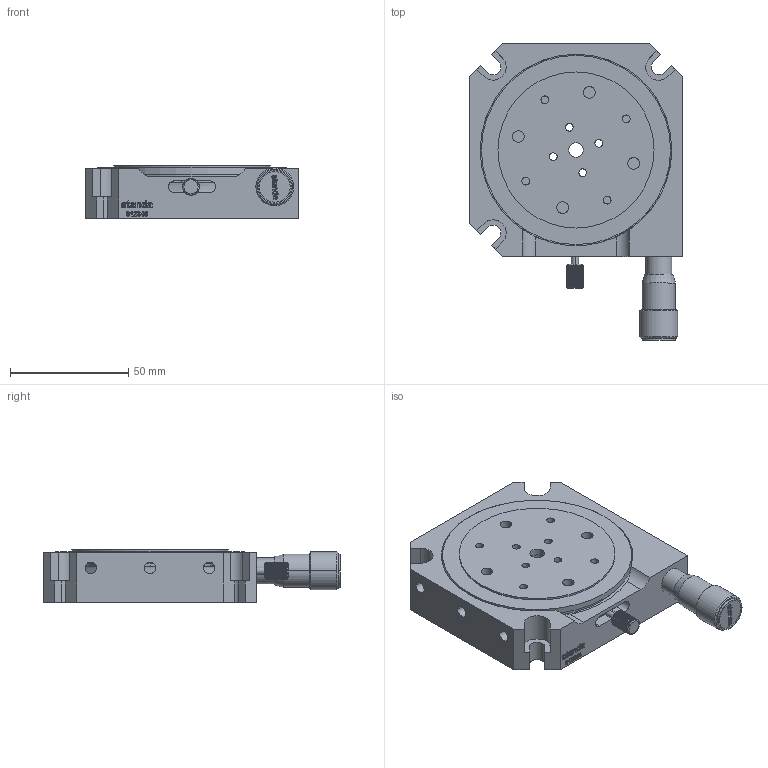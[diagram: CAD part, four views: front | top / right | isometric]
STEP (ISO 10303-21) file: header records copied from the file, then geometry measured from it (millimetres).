
FILE_DESCRIPTION (( 'STEP AP203' ), '1' );
FILE_NAME ('7R129.STEP', '2007-06-07T12:53:25', ( 'STANDA' ), ( '' ), 'SwSTEP 2.0', 'SolidWorks 2003240', '' );
FILE_SCHEMA (( 'CONFIG_CONTROL_DESIGN' ));
Length unit declared in the file: millimetre
Products named in the file (1): 7R129
Bounding box: 90 x 125.5 x 22.2 mm (x, y, z)
Volume: 147829 mm3; surface area: 45732.2 mm2
Topology: 1 solids, 6 shells, 851 faces, 2227 edges, 1425 vertices
Faces by surface type: plane 432, bspline 191, cylinder 176, cone 52
Entity records: 30585 total; most frequent: CARTESIAN_POINT 10789, ORIENTED_EDGE 4434, DIRECTION 3494, EDGE_CURVE 2217, VERTEX_POINT 1425, AXIS2_PLACEMENT_3D 1170, LINE 1154, VECTOR 1154
